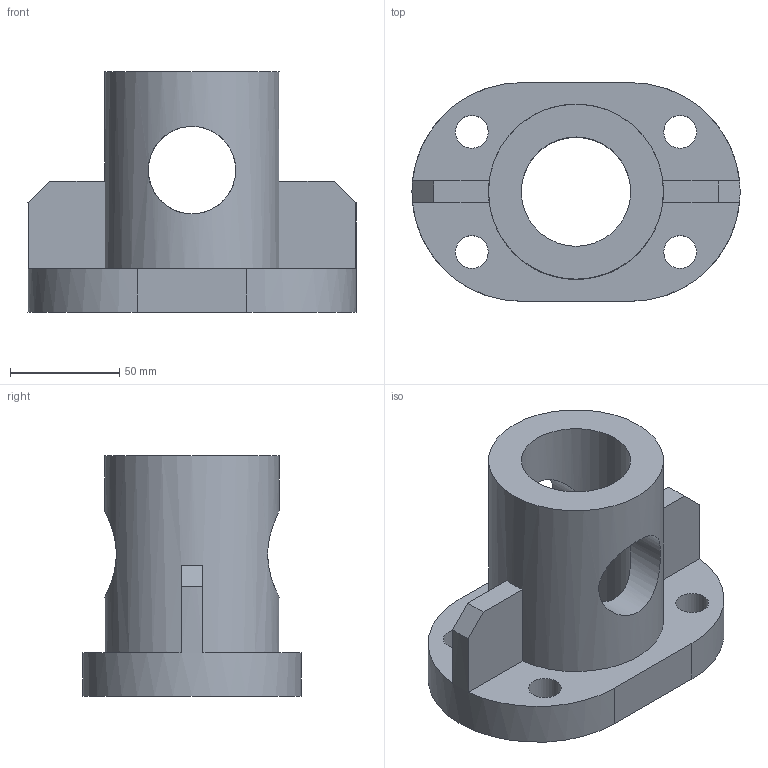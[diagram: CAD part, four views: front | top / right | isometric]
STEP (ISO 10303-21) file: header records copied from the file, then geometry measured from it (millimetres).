
FILE_DESCRIPTION(('TFLEX Exchange Step'),'2;1');
FILE_NAME('X2\041A043E0440043F04430441\X0\ вар 5.stp', '2025-06-24T11:13:02+03:00',('alymo'),('Unknown organisation'),'TFLEX Exchange 2023.0','T-FLEX CAD','Unknown authorisation');
FILE_SCHEMA( ('AUTOMOTIVE_DESIGN { 1 0 10303 214 1 1 1 1 }') );
Length unit declared in the file: millimetre
Products named in the file (1): Nodes
Bounding box: 150 x 100 x 110 mm (x, y, z)
Volume: 466402.2 mm3; surface area: 76518 mm2
Topology: 1 solids, 1 shells, 25 faces, 82 edges, 59 vertices
Faces by surface type: plane 14, cylinder 11
Full cylindrical faces by diameter (mm): 15 x4, 40 x2, 50 x1, 80 x1
Entity records: 2663 total; most frequent: CARTESIAN_POINT 1859, ORIENTED_EDGE 164, DIRECTION 161, EDGE_CURVE 82, AXIS2_PLACEMENT_3D 61, VERTEX_POINT 59, EDGE_LOOP 39, FACE_BOUND 39
